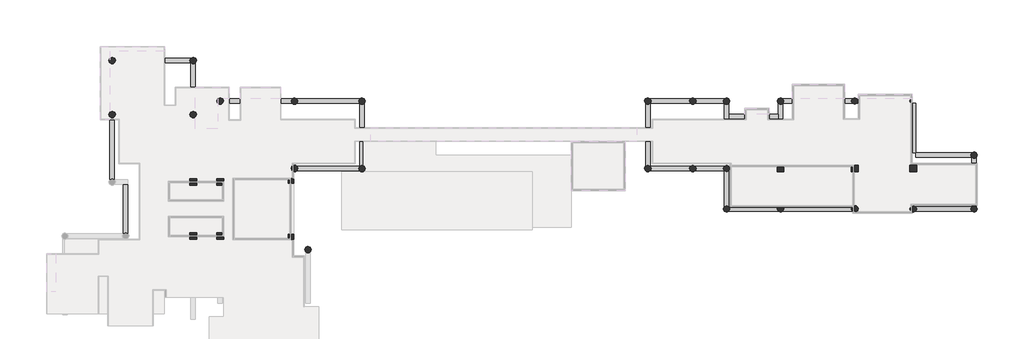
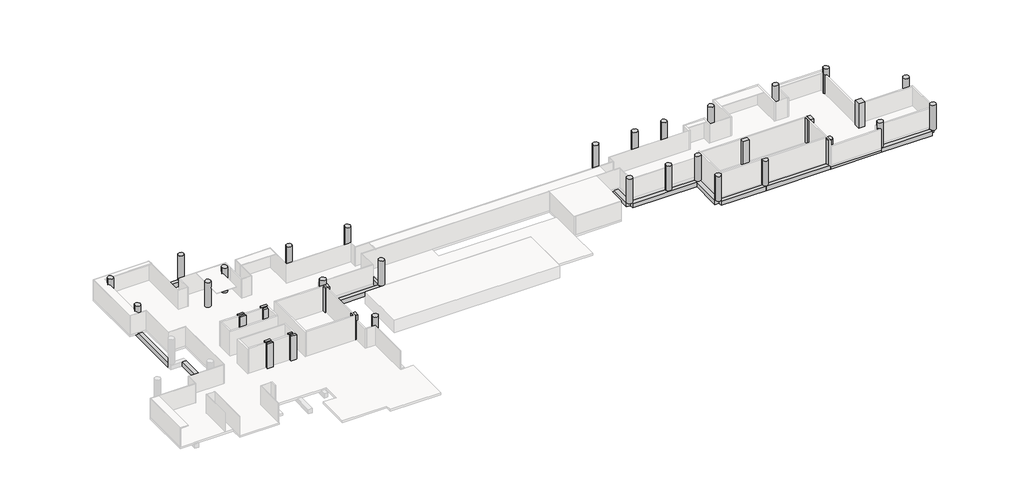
# One storey, part 3 of 3: 34 columns, 29 beams.
"""IFC4 building model written with IfcOpenShell, lengths in millimetres."""

from ifc_helpers import new_model, si_unit, point, frame, frame_2d, origin, place, context, project, spatial, polyline, circle_curve, trimmed, segment, composite_curve, outline, extrude, faceted_brep, transform, mapped, element, save
from ifc_brep_helpers import plane_surface, cylinder_surface, advanced_brep
from components import ajn_arc_ossature_rec_ba_700x600_213c05e2, ajn_arc_ossature_rec_ba_700x600_e99f8707, ajn_arc_ossature_rec_ba_700x600_e688680c, ajn_arc_ossature_rec_ba_700x600_8adee879, ajn_arc_ossature_rec_ba_700x600_6677e51c, ajn_arc_ossature_rec_ba_700x600_5c14351b, ajn_arc_ossature_rec_ba_700x600_e869caa8, ajn_arc_ossature_rec_ba_700x600_cb3e513f, ajn_arc_ossature_rec_ba_700x600_1618760c, ajn_arc_ossature_rec_ba_700x600_74f247c5, ajn_arc_ossature_rec_ba_700x600_5363c8ec, ajn_arc_ossature_rec_ba_700x600_64ced9d5, ajn_arc_ossature_rec_ba_700x600_cc927ea2, ajn_arc_ossature_rec_ba_700x600_f6f9d959, ajn_arc_ossature_rec_ba_700x600_81622abb, ajn_arc_ossature_rec_ba_700x600_dd06e79c, ajn_arc_ossature_rec_ba_700x600_2a036d11, ajn_arc_ossature_rec_ba_700x600_9ea86cff, ajn_arc_ossature_rec_ba_700x600_592c9ed1, ajn_arc_ossature_rec_ba_700x600_59e944a4, ajn_arc_ossature_rec_ba_700x600_73fcd0c3, ajn_arc_ossature_rec_ba_700x600_935a49c2, ajn_arc_ossature_rec_ba_700x600_004af76b, ajn_arc_ossature_rec_ba_700x600_d1e0036f, ajn_arc_ossature_rec_ba_700x600_8ca6ddb6, ajn_arc_poteau_circulaire_86033a3a, ajn_arc_poteau_rectangulaire_9fee269e

model = new_model("IFC4")

# Units and contexts
model_context = context("Model", 3, world=origin())
ifc_project = project(units=[si_unit("LENGTHUNIT", "METRE", prefix="MILLI")], contexts=[model_context])

# Site, building, storey
site = spatial("IfcSite", under=ifc_project)
building = spatial("IfcBuilding", under=site)
storey = spatial("IfcBuildingStorey", under=building, Name="TW-L 02", Elevation=5999.9999686)

# Beams
placement = place(None, origin())
ajn_arc_ossature_rec_ba_700x600_shape = ajn_arc_ossature_rec_ba_700x600_213c05e2(model_context)
element("IfcBeam", 1, ObjectType="AJN-ARC-OSSATURE REC-BA : 700x600", at=placement, inside=storey, context=model_context, shape_type="MappedRepresentation", body=[
    mapped(ajn_arc_ossature_rec_ba_700x600_shape, transform((64000.0, 34800.0, 5449.9999686), x_axis=(0.0, 1.0, 0.0), y_axis=(-1.0, 0.0, 0.0), z_axis=(0.0, 0.0, 1.0))),
])
element("IfcBeam", 2, ObjectType="AJN-ARC-OSSATURE REC-BA : 700x600", at=placement, inside=storey, context=model_context, shape_type="MappedRepresentation", body=[
    mapped(ajn_arc_ossature_rec_ba_700x600_shape, transform((102100.0, 34800.0, 5449.9999686), x_axis=(0.0, -1.0, 0.0), y_axis=(1.0, 0.0, 0.0), z_axis=(0.0, 0.0, 1.0))),
])
ajn_arc_ossature_rec_ba_700x600_2_shape = ajn_arc_ossature_rec_ba_700x600_e99f8707(model_context)
element("IfcBeam", 3, ObjectType="AJN-ARC-OSSATURE REC-BA : 700x600", at=placement, inside=storey, context=model_context, shape_type="MappedRepresentation", body=[
    mapped(ajn_arc_ossature_rec_ba_700x600_2_shape, transform((50050.0, 39300.0, 5449.9999686), x_axis=(-1.0, 0.0, 0.0), y_axis=(0.0, -1.0, 0.0), z_axis=(0.0, 0.0, 1.0))),
])
element("IfcBeam", 4, ObjectType="AJN-ARC-OSSATURE REC-BA : 700x600", at=placement, inside=storey, context=model_context, shape_type="MappedRepresentation", body=[
    mapped(ajn_arc_ossature_rec_ba_700x600_2_shape, transform((124750.0, 39300.0, 5449.9999686), x_axis=(-1.0, 0.0, 0.0), y_axis=(0.0, -1.0, 0.0), z_axis=(0.0, 0.0, 1.0))),
])
ajn_arc_ossature_rec_ba_700x600_3_shape = ajn_arc_ossature_rec_ba_700x600_e688680c(model_context)
element("IfcBeam", 5, ObjectType="AJN-ARC-OSSATURE REC-BA : 700x600", at=placement, inside=storey, context=model_context, shape_type="MappedRepresentation", body=[
    mapped(ajn_arc_ossature_rec_ba_700x600_3_shape, transform((112600.0, 27600.0, 5449.9999686), x_axis=(0.0, -1.0, 0.0), y_axis=(1.0, 0.0, 0.0), z_axis=(0.0, 0.0, 1.0))),
])
ajn_arc_ossature_rec_ba_700x600_4_shape = ajn_arc_ossature_rec_ba_700x600_8adee879(model_context)
element("IfcBeam", 6, ObjectType="AJN-ARC-OSSATURE REC-BA : 700x600", at=placement, inside=storey, context=model_context, shape_type="MappedRepresentation", body=[
    mapped(ajn_arc_ossature_rec_ba_700x600_4_shape, transform((124750.0, 24900.0, 5449.9999686), x_axis=(1.0, 0.0, 0.0), y_axis=(0.0, 1.0, 0.0), z_axis=(0.0, 0.0, 1.0))),
])
ajn_arc_ossature_rec_ba_700x600_5_shape = ajn_arc_ossature_rec_ba_700x600_6677e51c(model_context)
element("IfcBeam", 7, ObjectType="AJN-ARC-OSSATURE REC-BA : 700x600", at=placement, inside=storey, context=model_context, shape_type="MappedRepresentation", body=[
    mapped(ajn_arc_ossature_rec_ba_700x600_5_shape, transform((133600.0, 24900.0, 5449.9999686), x_axis=(1.0, 0.0, 0.0), y_axis=(0.0, 1.0, 0.0), z_axis=(0.0, 0.0, 1.0))),
])
ajn_arc_ossature_rec_ba_700x600_6_shape = ajn_arc_ossature_rec_ba_700x600_5c14351b(model_context)
element("IfcBeam", 8, ObjectType="AJN-ARC-OSSATURE REC-BA : 700x600", at=placement, inside=storey, context=model_context, shape_type="MappedRepresentation", body=[
    mapped(ajn_arc_ossature_rec_ba_700x600_6_shape, transform((145600.0, 28500.0, 5449.9999686), x_axis=(0.0, 1.0, 0.0), y_axis=(-1.0, 0.0, 0.0), z_axis=(0.0, 0.0, 1.0))),
])
element("IfcBeam", 9, ObjectType="AJN-ARC-OSSATURE REC-BA : 700x600", at=placement, inside=storey, context=model_context, shape_type="MappedRepresentation", body=[
    mapped(ajn_arc_ossature_rec_ba_700x600_6_shape, transform((116200.0, 37200.0, 5449.9999686), x_axis=(-1.0, 0.0, 0.0), y_axis=(0.0, -1.0, 0.0), z_axis=(0.0, 0.0, 1.0))),
])
ajn_arc_ossature_rec_ba_700x600_7_shape = ajn_arc_ossature_rec_ba_700x600_e869caa8(model_context)
element("IfcBeam", 10, ObjectType="AJN-ARC-OSSATURE REC-BA : 700x600", at=placement, inside=storey, context=model_context, shape_type="MappedRepresentation", body=[
    mapped(ajn_arc_ossature_rec_ba_700x600_7_shape, transform((119800.0, 38250.0, 5449.9999686), x_axis=(0.0, -1.0, 0.0), y_axis=(1.0, 0.0, 0.0), z_axis=(0.0, 0.0, 1.0))),
])
ajn_arc_ossature_rec_ba_700x600_8_shape = ajn_arc_ossature_rec_ba_700x600_cb3e513f(model_context)
element("IfcBeam", 11, ObjectType="AJN-ARC-OSSATURE REC-BA : 700x600", at=placement, inside=storey, context=model_context, shape_type="MappedRepresentation", body=[
    mapped(ajn_arc_ossature_rec_ba_700x600_8_shape, transform((112600.0, 38250.0, 5449.9999686), x_axis=(0.0, 1.0, 0.0), y_axis=(-1.0, 0.0, 0.0), z_axis=(0.0, 0.0, 1.0))),
])
ajn_arc_ossature_rec_ba_700x600_9_shape = ajn_arc_ossature_rec_ba_700x600_1618760c(model_context)
element("IfcBeam", 12, ObjectType="AJN-ARC-OSSATURE REC-BA : 700x600", at=placement, inside=storey, context=model_context, shape_type="MappedRepresentation", body=[
    mapped(ajn_arc_ossature_rec_ba_700x600_9_shape, transform((45100.0, 37300.0, 5449.9999686), x_axis=(0.0, -1.0, 0.0), y_axis=(1.0, 0.0, 0.0), z_axis=(0.0, 0.0, 1.0))),
])
ajn_arc_ossature_rec_ba_700x600_10_shape = ajn_arc_ossature_rec_ba_700x600_74f247c5(model_context)
element("IfcBeam", 13, ObjectType="AJN-ARC-OSSATURE REC-BA : 700x600", at=placement, inside=storey, context=model_context, shape_type="MappedRepresentation", body=[
    mapped(ajn_arc_ossature_rec_ba_700x600_10_shape, transform((43300.0, 35300.0, 5449.9999686), x_axis=(-1.0, 0.0, 0.0), y_axis=(0.0, -1.0, 0.0), z_axis=(0.0, 0.0, 1.0))),
])
ajn_arc_ossature_rec_ba_700x600_11_shape = ajn_arc_ossature_rec_ba_700x600_5363c8ec(model_context)
element("IfcBeam", 14, ObjectType="AJN-ARC-OSSATURE REC-BA : 700x600", at=placement, inside=storey, context=model_context, shape_type="MappedRepresentation", body=[
    mapped(ajn_arc_ossature_rec_ba_700x600_11_shape, transform((41500.0, 36400.0, 5449.9999686), x_axis=(0.0, 1.0, 0.0), y_axis=(-1.0, 0.0, 0.0), z_axis=(0.0, 0.0, 1.0))),
])
ajn_arc_ossature_rec_ba_700x600_12_shape = ajn_arc_ossature_rec_ba_700x600_64ced9d5(model_context)
element("IfcBeam", 15, ObjectType="AJN-ARC-OSSATURE REC-BA : 700x600", at=placement, inside=storey, context=model_context, shape_type="MappedRepresentation", body=[
    mapped(ajn_arc_ossature_rec_ba_700x600_12_shape, transform((36100.0, 44700.0, 5449.9999686), x_axis=(-1.0, 0.0, 0.0), y_axis=(0.0, -1.0, 0.0), z_axis=(0.0, 0.0, 1.0))),
])
ajn_arc_ossature_rec_ba_700x600_13_shape = ajn_arc_ossature_rec_ba_700x600_cc927ea2(model_context)
element("IfcBeam", 16, ObjectType="AJN-ARC-OSSATURE REC-BA : 700x600", at=placement, inside=storey, context=model_context, shape_type="MappedRepresentation", body=[
    mapped(ajn_arc_ossature_rec_ba_700x600_13_shape, transform((30700.0, 33000.0, 5449.9999686), x_axis=(0.0, -1.0, 0.0), y_axis=(1.0, 0.0, 0.0), z_axis=(0.0, 0.0, 1.0))),
])
ajn_arc_ossature_rec_ba_700x600_14_shape = ajn_arc_ossature_rec_ba_700x600_f6f9d959(model_context)
element("IfcBeam", 17, ObjectType="AJN-ARC-OSSATURE REC-BA : 700x600", at=placement, inside=storey, context=model_context, shape_type="MappedRepresentation", body=[
    mapped(ajn_arc_ossature_rec_ba_700x600_14_shape, transform((32500.0, 24900.0, 5449.9999686), x_axis=(0.0, -1.0, 0.0), y_axis=(1.0, 0.0, 0.0), z_axis=(0.0, 0.0, 1.0))),
])
ajn_arc_ossature_rec_ba_700x600_15_shape = ajn_arc_ossature_rec_ba_700x600_81622abb(model_context)
element("IfcBeam", 18, ObjectType="AJN-ARC-OSSATURE REC-BA : 700x600", at=placement, inside=storey, context=model_context, shape_type="MappedRepresentation", body=[
    mapped(ajn_arc_ossature_rec_ba_700x600_15_shape, transform((41500.0, 41100.0, 5449.9999686), x_axis=(0.0, 1.0, 0.0), y_axis=(-1.0, 0.0, 0.0), z_axis=(0.0, 0.0, 1.0))),
])
ajn_arc_ossature_rec_ba_700x600_16_shape = ajn_arc_ossature_rec_ba_700x600_dd06e79c(model_context)
element("IfcBeam", 19, ObjectType="AJN-ARC-OSSATURE REC-BA : 700x600", at=placement, inside=storey, context=model_context, shape_type="MappedRepresentation", body=[
    mapped(ajn_arc_ossature_rec_ba_700x600_16_shape, transform((59500.0, 30300.0, 5449.9999686), x_axis=(1.0, 0.0, 0.0), y_axis=(0.0, 1.0, 0.0), z_axis=(0.0, 0.0, 1.0))),
])
ajn_arc_ossature_rec_ba_700x600_17_shape = ajn_arc_ossature_rec_ba_700x600_2a036d11(model_context)
element("IfcBeam", 20, ObjectType="AJN-ARC-OSSATURE REC-BA : 700x600", at=placement, inside=storey, context=model_context, shape_type="MappedRepresentation", body=[
    mapped(ajn_arc_ossature_rec_ba_700x600_17_shape, transform((141550.0, 24900.0, 5449.9999686), x_axis=(1.0, 0.0, 0.0), y_axis=(0.0, 1.0, 0.0), z_axis=(0.0, 0.0, 1.0))),
])
ajn_arc_ossature_rec_ba_700x600_18_shape = ajn_arc_ossature_rec_ba_700x600_9ea86cff(model_context)
element("IfcBeam", 21, ObjectType="AJN-ARC-OSSATURE REC-BA : 700x600", at=placement, inside=storey, context=model_context, shape_type="MappedRepresentation", body=[
    mapped(ajn_arc_ossature_rec_ba_700x600_18_shape, transform((137500.0, 35705.7377049, 5391.0226769), x_axis=(0.0, 0.9998656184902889, 0.016393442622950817), y_axis=(-1.0, 0.0, 0.0), z_axis=(0.0, -0.016393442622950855, 0.999865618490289))),
])
ajn_arc_ossature_rec_ba_700x600_19_shape = ajn_arc_ossature_rec_ba_700x600_592c9ed1(model_context)
element("IfcBeam", 22, ObjectType="AJN-ARC-OSSATURE REC-BA : 700x600", at=placement, inside=storey, context=model_context, shape_type="MappedRepresentation", body=[
    mapped(ajn_arc_ossature_rec_ba_700x600_19_shape, transform((110350.0, 39300.0, 5449.9999686), x_axis=(-1.0, 0.0, 0.0), y_axis=(0.0, -1.0, 0.0), z_axis=(0.0, 0.0, 1.0))),
])
ajn_arc_ossature_rec_ba_700x600_20_shape = ajn_arc_ossature_rec_ba_700x600_59e944a4(model_context)
element("IfcBeam", 23, ObjectType="AJN-ARC-OSSATURE REC-BA : 700x600", at=placement, inside=storey, context=model_context, shape_type="MappedRepresentation", body=[
    mapped(ajn_arc_ossature_rec_ba_700x600_20_shape, transform((105100.0, 39300.0, 5449.9999686), x_axis=(-1.0, 0.0, 0.0), y_axis=(0.0, -1.0, 0.0), z_axis=(0.0, 0.0, 1.0))),
])
ajn_arc_ossature_rec_ba_700x600_21_shape = ajn_arc_ossature_rec_ba_700x600_73fcd0c3(model_context)
element("IfcBeam", 24, ObjectType="AJN-ARC-OSSATURE REC-BA : 700x600", at=placement, inside=storey, context=model_context, shape_type="MappedRepresentation", body=[
    mapped(ajn_arc_ossature_rec_ba_700x600_21_shape, transform((107350.0, 30300.0, 5449.9999686), x_axis=(1.0, 0.0, 0.0), y_axis=(0.0, 1.0, 0.0), z_axis=(0.0, 0.0, 1.0))),
])
ajn_arc_ossature_rec_ba_700x600_22_shape = ajn_arc_ossature_rec_ba_700x600_935a49c2(model_context)
element("IfcBeam", 25, ObjectType="AJN-ARC-OSSATURE REC-BA : 700x600", at=placement, inside=storey, context=model_context, shape_type="MappedRepresentation", body=[
    mapped(ajn_arc_ossature_rec_ba_700x600_22_shape, transform((30700.0, 41100.0, 5449.9999686), x_axis=(0.0, -1.0, 0.0), y_axis=(1.0, 0.0, 0.0), z_axis=(0.0, 0.0, 1.0))),
])
element("IfcBeam", 26, ObjectType="AJN-ARC-OSSATURE REC-BA : 700x600", at=placement, inside=storey, context=model_context, shape_type="MappedRepresentation", body=[
    mapped(ajn_arc_ossature_rec_ba_700x600_22_shape, transform((116200.0, 24900.0, 5449.9999686), x_axis=(1.0, 0.0, 0.0), y_axis=(0.0, 1.0, 0.0), z_axis=(0.0, 0.0, 1.0))),
])
ajn_arc_ossature_rec_ba_700x600_23_shape = ajn_arc_ossature_rec_ba_700x600_004af76b(model_context)
element("IfcBeam", 27, ObjectType="AJN-ARC-OSSATURE REC-BA : 700x600", at=placement, inside=storey, context=model_context, shape_type="MappedRepresentation", body=[
    mapped(ajn_arc_ossature_rec_ba_700x600_23_shape, transform((59500.0, 39300.0, 5449.9999686), x_axis=(-1.0, 0.0, 0.0), y_axis=(0.0, -1.0, 0.0), z_axis=(0.0, 0.0, 1.0))),
])
ajn_arc_ossature_rec_ba_700x600_24_shape = ajn_arc_ossature_rec_ba_700x600_d1e0036f(model_context)
element("IfcBeam", 28, ObjectType="AJN-ARC-OSSATURE REC-BA : 700x600", at=placement, inside=storey, context=model_context, shape_type="MappedRepresentation", body=[
    mapped(ajn_arc_ossature_rec_ba_700x600_24_shape, transform((141555.100326, 32100.0, 5391.0128072), x_axis=(-0.9998938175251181, 0.0, -0.014572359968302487), y_axis=(0.0, -1.0, 0.0), z_axis=(-0.014572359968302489, 0.0, 0.9998938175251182))),
])
ajn_arc_ossature_rec_ba_700x600_25_shape = ajn_arc_ossature_rec_ba_700x600_8ca6ddb6(model_context)
element("IfcBeam", 29, ObjectType="AJN-ARC-OSSATURE REC-BA : 700x600", at=placement, inside=storey, context=model_context, shape_type="MappedRepresentation", body=[
    mapped(ajn_arc_ossature_rec_ba_700x600_25_shape, transform((133600.0, 39300.0, 5449.9999686), x_axis=(-1.0, 0.0, 0.0), y_axis=(0.0, -1.0, 0.0), z_axis=(0.0, 0.0, 1.0))),
])

# Columns
element("IfcColumn", 30, ObjectType="AJN-ARC-POTEAU CIRCULAIRE : ø90", at=placement, inside=storey, context=model_context, shape_type="AdvancedBrep", body=[
    advanced_brep(
    [(54900.0, 30738.7482194, 5999.9999686), (55450.0, 30300.0, 5999.9999686), (54900.0, 29861.2517806, 5999.9999686), (54550.0, 30300.0, 9999.9999686), (55450.0, 30300.0, 9999.9999686), (54900.0, 30738.7482194, 9099.9999686), (54700.0, 30635.4101966, 9099.9999686), (54700.0, 30635.4101966, 5999.9999686), (54550.0, 30300.0, 5999.9999686), (54700.0, 29964.5898034, 5999.9999686), (54700.0, 29964.5898034, 9099.9999686), (54900.0, 29861.2517806, 9099.9999686)],
    [
        (0, 1, circle_curve(frame((55000.0, 30300.0, 5999.9999686), z_axis=(0.0, 0.0, -1.0), x_axis=(1.0, 0.0, 0.0)), 450.0)),
        (1, 2, circle_curve(frame((55000.0, 30300.0, 5999.9999686), z_axis=(0.0, 0.0, -1.0), x_axis=(1.0, 0.0, 0.0)), 450.0)),
        (2, 0),
        (3, 4, circle_curve(frame((55000.0, 30300.0, 9999.9999686), z_axis=(0.0, 0.0, -1.0), x_axis=(1.0, 0.0, 0.0)), 450.0)),
        (4, 1),
        (0, 5),
        (5, 6, circle_curve(frame((55000.0, 30300.0, 9099.9999686), z_axis=(0.0, 0.0, 1.0), x_axis=(1.0, 0.0, 0.0)), 450.0)),
        (6, 7),
        (7, 8, circle_curve(frame((55000.0, 30300.0, 5999.9999686), z_axis=(0.0, 0.0, 1.0), x_axis=(1.0, 0.0, 0.0)), 450.0)),
        (8, 3),
        (4, 3, circle_curve(frame((55000.0, 30300.0, 9999.9999686), z_axis=(0.0, 0.0, -1.0), x_axis=(1.0, 0.0, 0.0)), 450.0)),
        (8, 9, circle_curve(frame((55000.0, 30300.0, 5999.9999686), z_axis=(0.0, 0.0, 1.0), x_axis=(1.0, 0.0, 0.0)), 450.0)),
        (9, 10),
        (10, 11, circle_curve(frame((55000.0, 30300.0, 9099.9999686), z_axis=(0.0, 0.0, 1.0), x_axis=(1.0, 0.0, 0.0)), 450.0)),
        (11, 2),
        (11, 5),
        (6, 10),
        (9, 7),
    ],
    [
        plane_surface(frame((55450.0, 30300.0, 5999.9999686), z_axis=(0.0, 0.0, -1.0), x_axis=(0.0, -1.0, 0.0))),
        cylinder_surface(frame((55000.0, 30300.0, 5999.9999686), z_axis=(0.0, 0.0, 1.0), x_axis=(1.0, 0.0, 0.0)), 450.0),
        plane_surface(frame((55450.0, 30300.0, 9999.9999686), z_axis=(0.0, 0.0, 1.0), x_axis=(0.0, 1.0, 0.0))),
        plane_surface(frame((54900.0, 28925.0685078, 5999.9999686), z_axis=(-1.0, 0.0, 0.0), x_axis=(0.0, 1.0, 0.0))),
        plane_surface(frame((54700.0, 28925.0685078, 5999.9999686), z_axis=(1.0, 0.0, 0.0), x_axis=(0.0, -1.0, 0.0))),
        plane_surface(frame((54900.0, 30975.0007569, 9099.9999686), z_axis=(0.0, 0.0, -1.0), x_axis=(-1.0, 0.0, 0.0))),
    ],
    [
        (0, [[1, 2, 3]]),
        (1, [[4, 5, -1, 6, 7, 8, 9, 10]]),
        (1, [[-5, 11, -10, 12, 13, 14, 15, -2]]),
        (2, [[-4, -11]]),
        (3, [[16, -6, -3, -15]]),
        (4, [[17, -13, 18, -8]]),
        (5, [[-16, -14, -17, -7]]),
        (0, [[-9, -18, -12]]),
    ],
),
])
element("IfcColumn", 31, ObjectType="AJN-ARC-POTEAU CIRCULAIRE : ø90", at=placement, inside=storey, context=model_context, shape_type="SweptSolid", body=[
    extrude(outline(composite_curve([segment(trimmed(circle_curve(frame_2d((112600.0, 30300.0)), 450.0), [point((112150.0, 30300.0))], [point((113050.0, 30300.0))], False, "CARTESIAN"), True, "CONTINUOUS"), segment(trimmed(circle_curve(frame_2d((112600.0, 30300.0)), 450.0), [point((113050.0, 30300.0))], [point((112150.0, 30300.0))], False, "CARTESIAN"), True, "CONTINUOUS")], self_intersect=False)), frame((0.0, 0.0, 5999.9999686), z_axis=(0.0, 0.0, 1.0), x_axis=(1.0, 0.0, 0.0)), (0.0, 0.0, 1.0), 4000.0),
])
element("IfcColumn", 32, ObjectType="AJN-ARC-POTEAU CIRCULAIRE : ø90", at=placement, inside=storey, context=model_context, shape_type="SweptSolid", body=[
    extrude(outline(composite_curve([segment(trimmed(circle_curve(frame_2d((112600.0, 24900.0)), 450.0), [point((112150.0, 24900.0))], [point((113050.0, 24900.0))], False, "CARTESIAN"), True, "CONTINUOUS"), segment(trimmed(circle_curve(frame_2d((112600.0, 24900.0)), 450.0), [point((113050.0, 24900.0))], [point((112150.0, 24900.0))], False, "CARTESIAN"), True, "CONTINUOUS")], self_intersect=False)), frame((0.0, 0.0, 5999.9999686), z_axis=(0.0, 0.0, 1.0), x_axis=(1.0, 0.0, 0.0)), (0.0, 0.0, 1.0), 4000.0),
])
element("IfcColumn", 33, ObjectType="AJN-ARC-POTEAU CIRCULAIRE : ø90", at=placement, inside=storey, context=model_context, shape_type="SweptSolid", body=[
    extrude(outline(composite_curve([segment(trimmed(circle_curve(frame_2d((119800.0, 24900.0)), 450.0), [point((120250.0, 24900.0))], [point((119350.0, 24900.0))], False, "CARTESIAN"), True, "CONTINUOUS"), segment(trimmed(circle_curve(frame_2d((119800.0, 24900.0)), 450.0), [point((119350.0, 24900.0))], [point((119425.8342613, 25150.0))], False, "CARTESIAN"), True, "CONTINUOUS"), segment(polyline([(119425.8342613, 25150.0), (120174.1657387, 25150.0)]), True, "CONTINUOUS"), segment(trimmed(circle_curve(frame_2d((119800.0, 24900.0)), 450.0), [point((120174.1657387, 25150.0))], [point((120250.0, 24900.0))], False, "CARTESIAN"), True, "CONTINUOUS")], self_intersect=False)), frame((0.0, 0.0, 5999.9999686), z_axis=(0.0, 0.0, 1.0), x_axis=(1.0, 0.0, 0.0)), (0.0, 0.0, 1.0), 4000.0),
])
element("IfcColumn", 34, ObjectType="AJN-ARC-POTEAU CIRCULAIRE : ø90", at=placement, inside=storey, context=model_context, shape_type="SweptSolid", body=[
    extrude(outline(composite_curve([segment(trimmed(circle_curve(frame_2d((129700.0, 39300.0)), 450.0), [point((129250.0, 39300.0))], [point((130150.0, 39300.0))], False, "CARTESIAN"), True, "CONTINUOUS"), segment(trimmed(circle_curve(frame_2d((129700.0, 39300.0)), 450.0), [point((130150.0, 39300.0))], [point((129250.0, 39300.0))], False, "CARTESIAN"), True, "CONTINUOUS")], self_intersect=False)), frame((0.0, 0.0, 5999.9999686), z_axis=(0.0, 0.0, 1.0), x_axis=(1.0, 0.0, 0.0)), (0.0, 0.0, 1.0), 4000.0),
])
element("IfcColumn", 35, ObjectType="AJN-ARC-POTEAU CIRCULAIRE : ø90", at=placement, inside=storey, context=model_context, shape_type="AdvancedBrep", body=[
    advanced_brep(
    [(129600.0, 25338.7482194, 5999.9999686), (130150.0, 24900.0, 5999.9999686), (129906.1552813, 24500.0, 5999.9999686), (129600.0, 24500.0, 5999.9999686), (130150.0, 24900.0, 9999.9999686), (129600.0, 25338.7482194, 9999.9999686), (129600.0, 24461.2517806, 9999.9999686), (129600.0, 24500.0, 9099.9999686), (129600.0, 24461.2517806, 9099.9999686), (129906.1552813, 24500.0, 9099.9999686)],
    [
        (0, 1, circle_curve(frame((129700.0, 24900.0, 5999.9999686), z_axis=(0.0, 0.0, -1.0), x_axis=(1.0, 0.0, 0.0)), 450.0)),
        (1, 2, circle_curve(frame((129700.0, 24900.0, 5999.9999686), z_axis=(0.0, 0.0, -1.0), x_axis=(1.0, 0.0, 0.0)), 450.0)),
        (2, 3),
        (3, 0),
        (4, 1),
        (0, 5),
        (5, 4, circle_curve(frame((129700.0, 24900.0, 9999.9999686), z_axis=(0.0, 0.0, -1.0), x_axis=(1.0, 0.0, 0.0)), 450.0)),
        (5, 6),
        (6, 4, circle_curve(frame((129700.0, 24900.0, 9999.9999686), z_axis=(0.0, 0.0, 1.0), x_axis=(1.0, 0.0, 0.0)), 450.0)),
        (3, 7),
        (7, 8),
        (8, 6),
        (9, 7),
        (2, 9),
        (9, 8, circle_curve(frame((129700.0, 24900.0, 9099.9999686), z_axis=(0.0, 0.0, -1.0), x_axis=(1.0, 0.0, 0.0)), 450.0)),
    ],
    [
        plane_surface(frame((130150.0, 24900.0, 5999.9999686), z_axis=(0.0, 0.0, -1.0), x_axis=(0.0, -1.0, 0.0))),
        cylinder_surface(frame((129700.0, 24900.0, 5999.9999686), z_axis=(0.0, 0.0, 1.0), x_axis=(1.0, 0.0, 0.0)), 450.0),
        plane_surface(frame((130150.0, 24900.0, 9999.9999686), z_axis=(0.0, 0.0, 1.0), x_axis=(0.0, 1.0, 0.0))),
        plane_surface(frame((129600.0, 25250.0, 5999.9999686), z_axis=(-1.0, 0.0, 0.0), x_axis=(0.0, 1.0, 0.0))),
        plane_surface(frame((129950.0, 24500.0, 5999.9999686), z_axis=(0.0, -1.0, 0.0), x_axis=(-1.0, 0.0, 0.0))),
        plane_surface(frame((137249.9999728, 24300.0, 9099.9999686), z_axis=(0.0, 0.0, -1.0), x_axis=(0.0, 1.0, 0.0))),
    ],
    [
        (0, [[1, 2, 3, 4]]),
        (1, [[5, -1, 6, 7]]),
        (2, [[-7, 8, 9]]),
        (3, [[-6, -4, 10, 11, 12, -8]]),
        (4, [[13, -10, -3, 14]]),
        (5, [[-13, 15, -11]]),
        (1, [[-5, -9, -12, -15, -14, -2]]),
    ],
),
    advanced_brep(
    [(129250.0, 24900.0, 9999.9999686), (129250.0, 24900.0, 5999.9999686), (129400.0, 24564.5898034, 5999.9999686), (129400.0, 24564.5898034, 9999.9999686), (129400.0, 25150.0, 5999.9999686), (129325.8342613, 25150.0, 5999.9999686), (129325.8342613, 25150.0, 9999.9999686), (129400.0, 25150.0, 9999.9999686)],
    [
        (0, 1),
        (1, 2, circle_curve(frame((129700.0, 24900.0, 5999.9999686), z_axis=(0.0, 0.0, 1.0), x_axis=(1.0, 0.0, 0.0)), 450.0)),
        (2, 3),
        (3, 0, circle_curve(frame((129700.0, 24900.0, 9999.9999686), z_axis=(0.0, 0.0, -1.0), x_axis=(1.0, 0.0, 0.0)), 450.0)),
        (4, 5),
        (5, 6),
        (6, 7),
        (7, 4),
        (2, 4),
        (7, 3),
        (0, 6, circle_curve(frame((129700.0, 24900.0, 9999.9999686), z_axis=(0.0, 0.0, -1.0), x_axis=(1.0, 0.0, 0.0)), 450.0)),
        (5, 1, circle_curve(frame((129700.0, 24900.0, 5999.9999686), z_axis=(0.0, 0.0, 1.0), x_axis=(1.0, 0.0, 0.0)), 450.0)),
    ],
    [
        cylinder_surface(frame((129700.0, 24900.0, 5999.9999686), z_axis=(0.0, 0.0, 1.0), x_axis=(1.0, 0.0, 0.0)), 450.0),
        plane_surface(frame((113150.0, 25150.0, 5999.9999686), z_axis=(0.0, 1.0, 0.0), x_axis=(1.0, 0.0, 0.0))),
        plane_surface(frame((129400.0, 25250.0, 5999.9999686), z_axis=(1.0, 0.0, 0.0), x_axis=(0.0, -1.0, 0.0))),
        plane_surface(frame((130150.0, 24900.0, 5999.9999686), z_axis=(0.0, 0.0, -1.0), x_axis=(0.0, -1.0, 0.0))),
        plane_surface(frame((130150.0, 24900.0, 9999.9999686), z_axis=(0.0, 0.0, 1.0), x_axis=(0.0, 1.0, 0.0))),
    ],
    [
        (0, [[1, 2, 3, 4]]),
        (1, [[5, 6, 7, 8]]),
        (2, [[9, -8, 10, -3]]),
        (0, [[-1, 11, -6, 12]]),
        (3, [[-12, -5, -9, -2]]),
        (4, [[-11, -4, -10, -7]]),
    ],
),
])
element("IfcColumn", 36, ObjectType="AJN-ARC-POTEAU CIRCULAIRE : ø90", at=placement, inside=storey, context=model_context, shape_type="AdvancedBrep", body=[
    advanced_brep(
    [(137350.0000195, 39724.2640756, 5999.9999686), (137950.0, 39300.0, 5999.9999686), (137350.0000169, 38875.7359253, 5999.9999686), (137050.0, 39300.0, 9999.9999686), (137950.0, 39300.0, 9999.9999686), (137350.0000195, 39724.2640756, 9099.9999686), (137150.000019, 39582.842736, 9099.9999686), (137150.000019, 39582.842736, 5999.9999686), (137050.0, 39300.0, 5999.9999686), (137150.0000173, 39017.1572661, 5999.9999686), (137150.0000173, 39017.1572661, 9099.9999686), (137350.0000169, 38875.7359253, 9099.9999686)],
    [
        (0, 1, circle_curve(frame((137500.0, 39300.0, 5999.9999686), z_axis=(0.0, 0.0, -1.0), x_axis=(1.0, 0.0, 0.0)), 450.0)),
        (1, 2, circle_curve(frame((137500.0, 39300.0, 5999.9999686), z_axis=(0.0, 0.0, -1.0), x_axis=(1.0, 0.0, 0.0)), 450.0)),
        (2, 0),
        (3, 4, circle_curve(frame((137500.0, 39300.0, 9999.9999686), z_axis=(0.0, 0.0, -1.0), x_axis=(1.0, 0.0, 0.0)), 450.0)),
        (4, 1),
        (0, 5),
        (5, 6, circle_curve(frame((137500.0, 39300.0, 9099.9999686), z_axis=(0.0, 0.0, 1.0), x_axis=(1.0, 0.0, 0.0)), 450.0)),
        (6, 7),
        (7, 8, circle_curve(frame((137500.0, 39300.0, 5999.9999686), z_axis=(0.0, 0.0, 1.0), x_axis=(1.0, 0.0, 0.0)), 450.0)),
        (8, 3),
        (4, 3, circle_curve(frame((137500.0, 39300.0, 9999.9999686), z_axis=(0.0, 0.0, -1.0), x_axis=(1.0, 0.0, 0.0)), 450.0)),
        (8, 9, circle_curve(frame((137500.0, 39300.0, 5999.9999686), z_axis=(0.0, 0.0, 1.0), x_axis=(1.0, 0.0, 0.0)), 450.0)),
        (9, 10),
        (10, 11, circle_curve(frame((137500.0, 39300.0, 9099.9999686), z_axis=(0.0, 0.0, 1.0), x_axis=(1.0, 0.0, 0.0)), 450.0)),
        (11, 2),
        (11, 5),
        (6, 10),
        (9, 7),
    ],
    [
        plane_surface(frame((137950.0, 39300.0, 5999.9999686), z_axis=(0.0, 0.0, -1.0), x_axis=(0.0, -1.0, 0.0))),
        cylinder_surface(frame((137500.0, 39300.0, 5999.9999686), z_axis=(0.0, 0.0, 1.0), x_axis=(1.0, 0.0, 0.0)), 450.0),
        plane_surface(frame((137950.0, 39300.0, 9999.9999686), z_axis=(0.0, 0.0, 1.0), x_axis=(0.0, 1.0, 0.0))),
        plane_surface(frame((137349.9999927, 30999.9999938, 5999.9999686), z_axis=(-1.0, 3.074426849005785e-09, 0.0), x_axis=(3.074426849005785e-09, 1.0, 0.0))),
        plane_surface(frame((137149.9999927, 30999.9999944, 5999.9999686), z_axis=(1.0, -3.074426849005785e-09, 0.0), x_axis=(-3.074426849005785e-09, -1.0, 0.0))),
        plane_surface(frame((137350.0000206, 40099.9999997, 9099.9999686), z_axis=(0.0, 0.0, -1.0), x_axis=(-1.0, 3.0744330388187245e-09, 0.0))),
    ],
    [
        (0, [[1, 2, 3]]),
        (1, [[4, 5, -1, 6, 7, 8, 9, 10]]),
        (1, [[-5, 11, -10, 12, 13, 14, 15, -2]]),
        (2, [[-4, -11]]),
        (3, [[16, -6, -3, -15]]),
        (4, [[17, -13, 18, -8]]),
        (5, [[-16, -14, -17, -7]]),
        (0, [[-9, -18, -12]]),
    ],
),
])
element("IfcColumn", 37, ObjectType="AJN-ARC-POTEAU CIRCULAIRE : ø90", at=placement, inside=storey, context=model_context, shape_type="AdvancedBrep", body=[
    advanced_brep(
    [(137950.0, 24900.0, 5999.9999686), (137349.9999732, 24475.7359408, 5999.9999686), (137349.9999734, 24500.0, 5999.9999686), (137349.9999779, 25324.2640609, 5999.9999686), (137050.0, 24900.0, 9999.9999686), (137950.0, 24900.0, 9999.9999686), (137349.9999779, 25324.2640609, 9099.9999686), (137149.9999771, 25182.8426841, 9099.9999686), (137149.9999771, 25182.8426841, 5999.9999686), (137050.0, 24900.0, 5999.9999686), (137149.999974, 24617.1573197, 5999.9999686), (137149.999974, 24617.1573197, 9099.9999686), (137293.8447187, 24500.0, 9099.9999686), (137349.9999732, 24475.7359408, 9099.9999686), (137349.9999734, 24500.0, 9099.9999686)],
    [
        (0, 1, circle_curve(frame((137500.0, 24900.0, 5999.9999686), z_axis=(0.0, 0.0, -1.0), x_axis=(1.0, 0.0, 0.0)), 450.0)),
        (1, 2),
        (2, 3),
        (3, 0, circle_curve(frame((137500.0, 24900.0, 5999.9999686), z_axis=(0.0, 0.0, -1.0), x_axis=(1.0, 0.0, 0.0)), 450.0)),
        (4, 5, circle_curve(frame((137500.0, 24900.0, 9999.9999686), z_axis=(0.0, 0.0, -1.0), x_axis=(1.0, 0.0, 0.0)), 450.0)),
        (5, 0),
        (3, 6),
        (6, 7, circle_curve(frame((137500.0, 24900.0, 9099.9999686), z_axis=(0.0, 0.0, 1.0), x_axis=(1.0, 0.0, 0.0)), 450.0)),
        (7, 8),
        (8, 9, circle_curve(frame((137500.0, 24900.0, 5999.9999686), z_axis=(0.0, 0.0, 1.0), x_axis=(1.0, 0.0, 0.0)), 450.0)),
        (9, 4),
        (5, 4, circle_curve(frame((137500.0, 24900.0, 9999.9999686), z_axis=(0.0, 0.0, -1.0), x_axis=(1.0, 0.0, 0.0)), 450.0)),
        (9, 10, circle_curve(frame((137500.0, 24900.0, 5999.9999686), z_axis=(0.0, 0.0, 1.0), x_axis=(1.0, 0.0, 0.0)), 450.0)),
        (10, 11),
        (11, 12, circle_curve(frame((137500.0, 24900.0, 9099.9999686), z_axis=(0.0, 0.0, 1.0), x_axis=(1.0, 0.0, 0.0)), 450.0)),
        (12, 13, circle_curve(frame((137500.0, 24900.0, 9099.9999686), z_axis=(0.0, 0.0, 1.0), x_axis=(1.0, 0.0, 0.0)), 450.0)),
        (13, 1),
        (12, 14),
        (14, 13),
        (14, 6),
        (2, 14),
        (7, 11),
        (10, 8),
    ],
    [
        plane_surface(frame((137950.0, 24900.0, 5999.9999686), z_axis=(0.0, 0.0, -1.0), x_axis=(0.0, -1.0, 0.0))),
        cylinder_surface(frame((137500.0, 24900.0, 5999.9999686), z_axis=(0.0, 0.0, 1.0), x_axis=(1.0, 0.0, 0.0)), 450.0),
        plane_surface(frame((137950.0, 24900.0, 9999.9999686), z_axis=(0.0, 0.0, 1.0), x_axis=(0.0, 1.0, 0.0))),
        plane_surface(frame((137249.9999728, 24300.0, 9099.9999686), z_axis=(0.0, 0.0, -1.0), x_axis=(0.0, 1.0, 0.0))),
        plane_surface(frame((137349.9999728, 24399.9999995, 5999.9999686), z_axis=(-1.0, 5.493997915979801e-09, 0.0), x_axis=(5.493997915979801e-09, 1.0, 0.0))),
        plane_surface(frame((137149.9999728, 24400.0000005, 5999.9999686), z_axis=(1.0, -5.493997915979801e-09, 0.0), x_axis=(-5.493997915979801e-09, -1.0, 0.0))),
        plane_surface(frame((137349.9999786, 25450.0000475, 9099.9999686), z_axis=(0.0, 0.0, -1.0), x_axis=(-1.0, 5.4939913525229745e-09, 0.0))),
    ],
    [
        (0, [[1, 2, 3, 4]]),
        (1, [[5, 6, -4, 7, 8, 9, 10, 11]]),
        (1, [[-6, 12, -11, 13, 14, 15, 16, 17, -1]]),
        (2, [[-5, -12]]),
        (3, [[-16, 18, 19]]),
        (4, [[20, -7, -3, 21]]),
        (5, [[22, -14, 23, -9]]),
        (6, [[-20, -18, -15, -22, -8]]),
        (0, [[-10, -23, -13]]),
        (4, [[-19, -21, -2, -17]]),
    ],
),
])
element("IfcColumn", 38, ObjectType="AJN-ARC-POTEAU CIRCULAIRE : ø90", at=placement, inside=storey, context=model_context, shape_type="SweptSolid", body=[
    extrude(outline(composite_curve([segment(trimmed(circle_curve(frame_2d((145600.0, 24900.0)), 450.0), [point((145150.0, 24900.0))], [point((146050.0, 24900.0))], False, "CARTESIAN"), True, "CONTINUOUS"), segment(trimmed(circle_curve(frame_2d((145600.0, 24900.0)), 450.0), [point((146050.0, 24900.0))], [point((145150.0, 24900.0))], False, "CARTESIAN"), True, "CONTINUOUS")], self_intersect=False)), frame((0.0, 0.0, 5999.9999686), z_axis=(0.0, 0.0, 1.0), x_axis=(1.0, 0.0, 0.0)), (0.0, 0.0, 1.0), 4000.0),
])
ajn_arc_poteau_circulaire_shape = ajn_arc_poteau_circulaire_86033a3a(model_context)
element("IfcColumn", 39, ObjectType="AJN-ARC-POTEAU CIRCULAIRE : ø90", at=placement, inside=storey, context=model_context, shape_type="MappedRepresentation", body=[
    mapped(ajn_arc_poteau_circulaire_shape, transform((30700.0, 44700.0, 0.0), x_axis=(1.0, 0.0, 0.0), y_axis=(0.0, 1.0, 0.0), z_axis=(0.0, 0.0, 1.0))),
])
element("IfcColumn", 40, ObjectType="AJN-ARC-POTEAU CIRCULAIRE : ø90", at=placement, inside=storey, context=model_context, shape_type="MappedRepresentation", body=[
    mapped(ajn_arc_poteau_circulaire_shape, transform((30700.0, 37500.0, 0.0), x_axis=(1.0, 0.0, 0.0), y_axis=(0.0, 1.0, 0.0), z_axis=(0.0, 0.0, 1.0))),
])
element("IfcColumn", 41, ObjectType="AJN-ARC-POTEAU CIRCULAIRE : ø90", at=placement, inside=storey, context=model_context, shape_type="MappedRepresentation", body=[
    mapped(ajn_arc_poteau_circulaire_shape, transform((41500.0, 44700.0, 0.0), x_axis=(1.0, 0.0, 0.0), y_axis=(0.0, 1.0, 0.0), z_axis=(0.0, 0.0, 1.0))),
])
element("IfcColumn", 42, ObjectType="AJN-ARC-POTEAU CIRCULAIRE : ø90", at=placement, inside=storey, context=model_context, shape_type="MappedRepresentation", body=[
    mapped(ajn_arc_poteau_circulaire_shape, transform((41500.0, 37500.0, 0.0), x_axis=(1.0, 0.0, 0.0), y_axis=(0.0, 1.0, 0.0), z_axis=(0.0, 0.0, 1.0))),
])
element("IfcColumn", 43, ObjectType="AJN-ARC-POTEAU CIRCULAIRE : ø90", at=placement, inside=storey, context=model_context, shape_type="MappedRepresentation", body=[
    mapped(ajn_arc_poteau_circulaire_shape, transform((55000.0, 39300.0, 0.0), x_axis=(1.0, 0.0, 0.0), y_axis=(0.0, 1.0, 0.0), z_axis=(0.0, 0.0, 1.0))),
])
element("IfcColumn", 44, ObjectType="AJN-ARC-POTEAU CIRCULAIRE : ø90", at=placement, inside=storey, context=model_context, shape_type="MappedRepresentation", body=[
    mapped(ajn_arc_poteau_circulaire_shape, transform((64000.0, 39300.0, 0.0), x_axis=(1.0, 0.0, 0.0), y_axis=(0.0, 1.0, 0.0), z_axis=(0.0, 0.0, 1.0))),
])
element("IfcColumn", 45, ObjectType="AJN-ARC-POTEAU CIRCULAIRE : ø90", at=placement, inside=storey, context=model_context, shape_type="MappedRepresentation", body=[
    mapped(ajn_arc_poteau_circulaire_shape, transform((64000.0, 30300.0, 0.0), x_axis=(1.0, 0.0, 0.0), y_axis=(0.0, 1.0, 0.0), z_axis=(0.0, 0.0, 1.0))),
])
element("IfcColumn", 46, ObjectType="AJN-ARC-POTEAU CIRCULAIRE : ø90", at=placement, inside=storey, context=model_context, shape_type="MappedRepresentation", body=[
    mapped(ajn_arc_poteau_circulaire_shape, transform((45100.0, 39300.0, 0.0), x_axis=(1.0, 0.0, 0.0), y_axis=(0.0, 1.0, 0.0), z_axis=(0.0, 0.0, 1.0))),
])
element("IfcColumn", 47, ObjectType="AJN-ARC-POTEAU CIRCULAIRE : ø90", at=placement, inside=storey, context=model_context, shape_type="MappedRepresentation", body=[
    mapped(ajn_arc_poteau_circulaire_shape, transform((56800.0, 19500.0, 0.0), x_axis=(1.0, 0.0, 0.0), y_axis=(0.0, 1.0, 0.0), z_axis=(0.0, 0.0, 1.0))),
])
element("IfcColumn", 48, ObjectType="AJN-ARC-POTEAU CIRCULAIRE : ø90", at=placement, inside=storey, context=model_context, shape_type="MappedRepresentation", body=[
    mapped(ajn_arc_poteau_circulaire_shape, transform((102100.0, 39300.0, 0.0), x_axis=(1.0, 0.0, 0.0), y_axis=(0.0, 1.0, 0.0), z_axis=(0.0, 0.0, 1.0))),
])
element("IfcColumn", 49, ObjectType="AJN-ARC-POTEAU CIRCULAIRE : ø90", at=placement, inside=storey, context=model_context, shape_type="MappedRepresentation", body=[
    mapped(ajn_arc_poteau_circulaire_shape, transform((102100.0, 30300.0, 0.0), x_axis=(1.0, 0.0, 0.0), y_axis=(0.0, 1.0, 0.0), z_axis=(0.0, 0.0, 1.0))),
])
element("IfcColumn", 50, ObjectType="AJN-ARC-POTEAU CIRCULAIRE : ø90", at=placement, inside=storey, context=model_context, shape_type="MappedRepresentation", body=[
    mapped(ajn_arc_poteau_circulaire_shape, transform((108100.0, 30300.0, 0.0), x_axis=(1.0, 0.0, 0.0), y_axis=(0.0, 1.0, 0.0), z_axis=(0.0, 0.0, 1.0))),
])
element("IfcColumn", 51, ObjectType="AJN-ARC-POTEAU CIRCULAIRE : ø90", at=placement, inside=storey, context=model_context, shape_type="MappedRepresentation", body=[
    mapped(ajn_arc_poteau_circulaire_shape, transform((108100.0, 39300.0, 0.0), x_axis=(1.0, 0.0, 0.0), y_axis=(0.0, 1.0, 0.0), z_axis=(0.0, 0.0, 1.0))),
])
element("IfcColumn", 52, ObjectType="AJN-ARC-POTEAU CIRCULAIRE : ø90", at=placement, inside=storey, context=model_context, shape_type="MappedRepresentation", body=[
    mapped(ajn_arc_poteau_circulaire_shape, transform((112600.0, 39300.0, 0.0), x_axis=(1.0, 0.0, 0.0), y_axis=(0.0, 1.0, 0.0), z_axis=(0.0, 0.0, 1.0))),
])
element("IfcColumn", 53, ObjectType="AJN-ARC-POTEAU CIRCULAIRE : ø90", at=placement, inside=storey, context=model_context, shape_type="MappedRepresentation", body=[
    mapped(ajn_arc_poteau_circulaire_shape, transform((119800.0, 39300.0, 0.0), x_axis=(1.0, 0.0, 0.0), y_axis=(0.0, 1.0, 0.0), z_axis=(0.0, 0.0, 1.0))),
])
element("IfcColumn", 54, ObjectType="AJN-ARC-POTEAU CIRCULAIRE : ø90", at=placement, inside=storey, context=model_context, shape_type="MappedRepresentation", body=[
    mapped(ajn_arc_poteau_circulaire_shape, transform((145600.0, 32100.0, 0.0), x_axis=(1.0, 0.0, 0.0), y_axis=(0.0, 1.0, 0.0), z_axis=(0.0, 0.0, 1.0))),
])
element("IfcColumn", 55, ObjectType="AJN-ARC-POTEAU RECTANGULAIRE : 700 mm x 700 mm", at=placement, inside=storey, context=model_context, shape_type="Brep", body=[
    faceted_brep([(54350.0, 28300.0, 5999.9999686), (54200.0, 28300.0, 5999.9999686), (54200.0, 28800.0, 5999.9999686), (54350.0, 28800.0, 5999.9999686), (54200.0, 28300.0, 9999.9999686), (54350.0, 28300.0, 9999.9999686), (54200.0, 28800.0, 9999.9999686), (54350.0, 28800.0, 9999.9999686)], [[[0, 1, 2, 3]], [[4, 1, 0, 5]], [[1, 4, 6, 2]], [[5, 0, 3, 7]], [[3, 2, 6, 7]], [[4, 5, 7, 6]]]),
    faceted_brep([(54900.0, 29000.0, 9999.9999686), (54900.0, 28300.0, 9999.9999686), (54900.0, 28300.0, 5999.9999686), (54900.0, 28925.0685078, 5999.9999686), (54900.0, 28925.0685078, 9099.9999686), (54900.0, 29000.0, 9099.9999686), (54550.0, 29000.0, 9999.9999686), (54550.0, 28300.0, 9999.9999686), (54550.0, 29000.0, 5999.9999686), (54550.0, 28300.0, 5999.9999686), (54700.0, 29000.0, 5999.9999686), (54700.0, 28925.0685078, 5999.9999686), (54700.0, 28925.0685078, 9099.9999686), (54700.0, 29000.0, 9099.9999686)], [[[0, 1, 2, 3, 4, 5]], [[1, 0, 6, 7]], [[8, 9, 7, 6]], [[2, 9, 8, 10, 11, 3]], [[12, 11, 10, 13]], [[4, 12, 13, 5]], [[11, 12, 4, 3]], [[2, 1, 7, 9]], [[8, 6, 0, 5, 13, 10]]]),
])
element("IfcColumn", 56, ObjectType="AJN-ARC-POTEAU RECTANGULAIRE : 700 mm x 700 mm", at=placement, inside=storey, context=model_context, shape_type="Brep", body=[
    faceted_brep([(54200.0, 21000.0, 5999.9999686), (54200.0, 21500.0, 5999.9999686), (54350.0, 21500.0, 5999.9999686), (54350.0, 21000.0, 5999.9999686), (54200.0, 21500.0, 9999.9999686), (54200.0, 21000.0, 9999.9999686), (54350.0, 21500.0, 9999.9999686), (54350.0, 21000.0, 9999.9999686)], [[[0, 1, 2, 3]], [[4, 1, 0, 5]], [[1, 4, 6, 2]], [[5, 0, 3, 7]], [[3, 2, 6, 7]], [[4, 5, 7, 6]]]),
    faceted_brep([(54900.0, 20800.0, 5999.9999686), (54900.0, 21500.0, 5999.9999686), (54900.0, 21500.0, 9999.9999686), (54900.0, 20800.0, 9999.9999686), (54900.0, 20800.0, 9099.9999686), (54550.0, 20800.0, 9999.9999686), (54550.0, 20800.0, 5999.9999686), (54700.0, 20800.0, 5999.9999686), (54550.0, 21500.0, 9999.9999686), (54550.0, 21000.0, 9999.9999686), (54550.0, 21000.0, 5999.9999686), (54550.0, 21500.0, 5999.9999686)], [[[0, 1, 2, 3, 4]], [[0, 4, 3, 5, 6, 7]], [[3, 2, 8, 9, 5]], [[10, 6, 5, 9]], [[11, 10, 9, 8]], [[1, 0, 7, 6, 10, 11]], [[2, 1, 11, 8]]]),
])
element("IfcColumn", 57, ObjectType="AJN-ARC-POTEAU RECTANGULAIRE : 900 mm x 900 mm", at=placement, inside=storey, context=model_context, shape_type="SweptSolid", body=[
    extrude(outline(polyline([(41050.0, 28950.0), (41950.0, 28950.0), (41950.0, 28600.0), (41050.0, 28600.0), (41050.0, 28950.0)])), frame((0.0, 0.0, 5999.9999686), z_axis=(0.0, 0.0, 1.0), x_axis=(1.0, 0.0, 0.0)), (0.0, 0.0, 1.0), 4000.0),
    extrude(outline(polyline([(41950.0, 28050.0), (41050.0, 28050.0), (41050.0, 28400.0), (41950.0, 28400.0), (41950.0, 28050.0)])), frame((0.0, 0.0, 5999.9999686), z_axis=(0.0, 0.0, 1.0), x_axis=(1.0, 0.0, 0.0)), (0.0, 0.0, 1.0), 4000.0),
])
element("IfcColumn", 58, ObjectType="AJN-ARC-POTEAU RECTANGULAIRE : 900 mm x 900 mm", at=placement, inside=storey, context=model_context, shape_type="SweptSolid", body=[
    extrude(outline(polyline([(41050.0, 21750.0), (41950.0, 21750.0), (41950.0, 21400.0), (41050.0, 21400.0), (41050.0, 21750.0)])), frame((0.0, 0.0, 5999.9999686), z_axis=(0.0, 0.0, 1.0), x_axis=(1.0, 0.0, 0.0)), (0.0, 0.0, 1.0), 4000.0),
    extrude(outline(polyline([(41950.0, 20850.0), (41050.0, 20850.0), (41050.0, 21200.0), (41950.0, 21200.0), (41950.0, 20850.0)])), frame((0.0, 0.0, 5999.9999686), z_axis=(0.0, 0.0, 1.0), x_axis=(1.0, 0.0, 0.0)), (0.0, 0.0, 1.0), 4000.0),
])
element("IfcColumn", 59, ObjectType="AJN-ARC-POTEAU RECTANGULAIRE : 900 mm x 900 mm", at=placement, inside=storey, context=model_context, shape_type="SweptSolid", body=[
    extrude(outline(polyline([(44650.0, 21400.0), (44650.0, 21750.0), (45350.0, 21750.0), (45350.0, 21400.0), (44650.0, 21400.0)])), frame((0.0, 0.0, 5999.9999686), z_axis=(0.0, 0.0, 1.0), x_axis=(1.0, 0.0, 0.0)), (0.0, 0.0, 1.0), 4000.0),
    extrude(outline(polyline([(45550.0, 20850.0), (44650.0, 20850.0), (44650.0, 21200.0), (45550.0, 21200.0), (45550.0, 20850.0)])), frame((0.0, 0.0, 5999.9999686), z_axis=(0.0, 0.0, 1.0), x_axis=(1.0, 0.0, 0.0)), (0.0, 0.0, 1.0), 4000.0),
])
element("IfcColumn", 60, ObjectType="AJN-ARC-POTEAU RECTANGULAIRE : 900 mm x 900 mm", at=placement, inside=storey, context=model_context, shape_type="SweptSolid", body=[
    extrude(outline(polyline([(44650.0, 28950.0), (45550.0, 28950.0), (45550.0, 28600.0), (45350.0, 28600.0), (44650.0, 28600.0), (44650.0, 28950.0)])), frame((0.0, 0.0, 5999.9999686), z_axis=(0.0, 0.0, 1.0), x_axis=(1.0, 0.0, 0.0)), (0.0, 0.0, 1.0), 4000.0),
    extrude(outline(polyline([(45350.0, 28050.0), (44650.0, 28050.0), (44650.0, 28400.0), (45350.0, 28400.0), (45350.0, 28050.0)])), frame((0.0, 0.0, 5999.9999686), z_axis=(0.0, 0.0, 1.0), x_axis=(1.0, 0.0, 0.0)), (0.0, 0.0, 1.0), 4000.0),
])
element("IfcColumn", 61, ObjectType="AJN-ARC-POTEAU RECTANGULAIRE : 900 mm x 900 mm", at=placement, inside=storey, context=model_context, shape_type="SweptSolid", body=[
    extrude(outline(polyline([(129400.0, 29850.0), (129250.0, 29850.0), (129250.0, 30550.0), (129400.0, 30550.0), (129400.0, 29850.0)])), frame((0.0, 0.0, 5999.9999686), z_axis=(0.0, 0.0, 1.0), x_axis=(1.0, 0.0, 0.0)), (0.0, 0.0, 1.0), 4000.0),
    extrude(outline(polyline([(130150.0, 30750.0), (130150.0, 29850.0), (129600.0, 29850.0), (129600.0, 30750.0), (130150.0, 30750.0)])), frame((0.0, 0.0, 5999.9999686), z_axis=(0.0, 0.0, 1.0), x_axis=(1.0, 0.0, 0.0)), (0.0, 0.0, 1.0), 4000.0),
])
element("IfcColumn", 62, ObjectType="AJN-ARC-POTEAU RECTANGULAIRE : 900 mm x 900 mm", at=placement, inside=storey, context=model_context, shape_type="SweptSolid", body=[
    extrude(outline(polyline([(120250.0, 29850.0), (119350.0, 29850.0), (119350.0, 30550.0), (120250.0, 30550.0), (120250.0, 29850.0)])), frame((0.0, 0.0, 5999.9999686), z_axis=(0.0, 0.0, 1.0), x_axis=(1.0, 0.0, 0.0)), (0.0, 0.0, 1.0), 4000.0),
])
ajn_arc_poteau_rectangulaire_shape = ajn_arc_poteau_rectangulaire_9fee269e(model_context)
element("IfcColumn", 63, ObjectType="AJN-ARC-POTEAU RECTANGULAIRE : 900 mm x 900 mm", at=placement, inside=storey, context=model_context, shape_type="MappedRepresentation", body=[
    mapped(ajn_arc_poteau_rectangulaire_shape, transform((137500.0, 30300.0, 0.0), x_axis=(1.0, 0.0, 0.0), y_axis=(0.0, 1.0, 0.0), z_axis=(0.0, 0.0, 1.0))),
])

save(model, "model.ifc")
